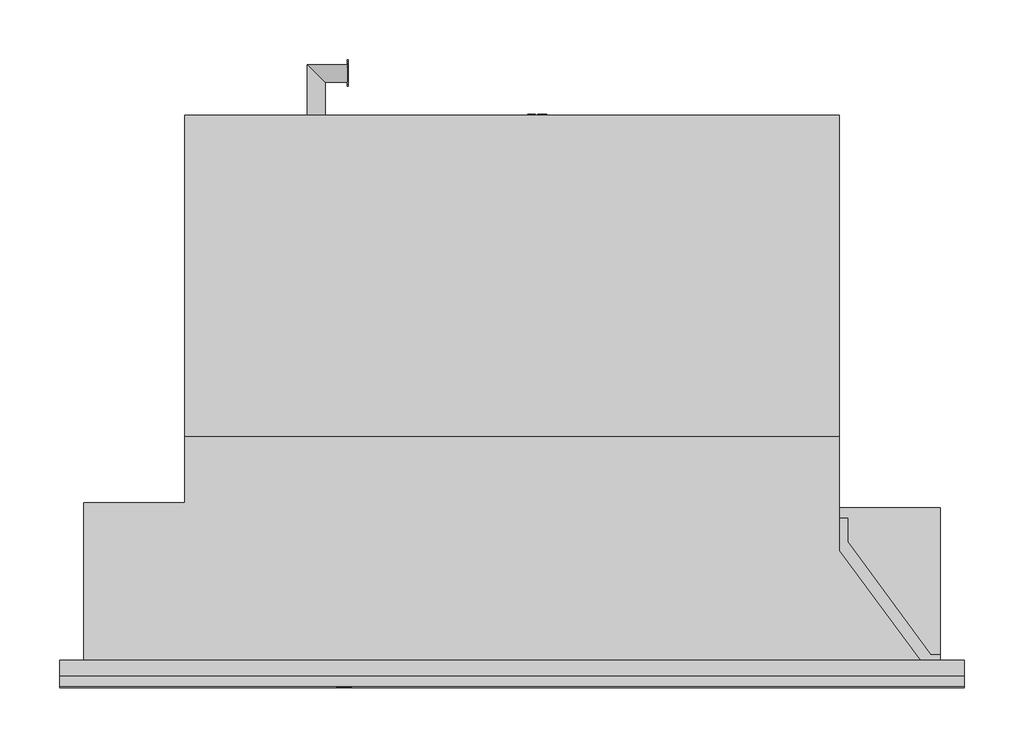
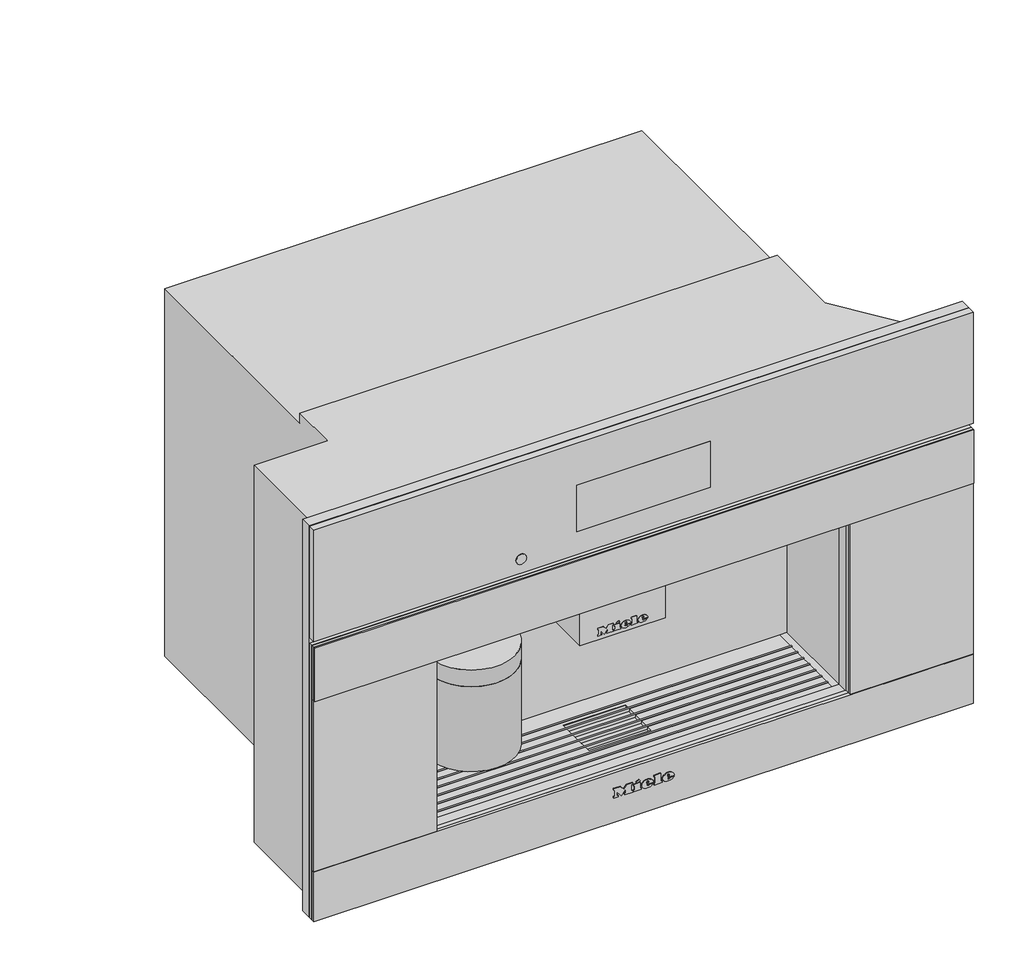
# Not in any storey: 1 proxy.
"""IFC4 building model written with IfcOpenShell, lengths in millimetres."""

from ifc_helpers import new_model, si_unit, origin, place, context, project, spatial, transform, mapped, element, save
from components import specialty_equipment_da076db9

model = new_model("IFC4")

# Units and contexts
model_context = context("Model", 3, world=origin())
ifc_project = project(units=[si_unit("LENGTHUNIT", "METRE", prefix="MILLI")], contexts=[model_context])

# Site, building
site = spatial("IfcSite", under=ifc_project)
building = spatial("IfcBuilding", under=site)

# Proxy
placement = place(None, origin())
specialty_equipment_shape = specialty_equipment_da076db9(model_context)
element("IfcBuildingElementProxy", 1, Name="12635830_USA_CVA7875_EDST-CLST : 29787540_USA_12635830_CVA7875_EDST-CLST", ObjectType="12635830_USA_CVA7875_EDST-CLST : 29787540_USA_12635830_CVA7875_EDST-CLST", at=placement, inside=building, context=model_context, shape_type="MappedRepresentation", body=[
    mapped(specialty_equipment_shape, transform((0.0, 0.0, 0.0), x_axis=(1.0, 0.0, 0.0), y_axis=(0.0, 1.0, 0.0), z_axis=(0.0, 0.0, 1.0))),
])

save(model, "model.ifc")
